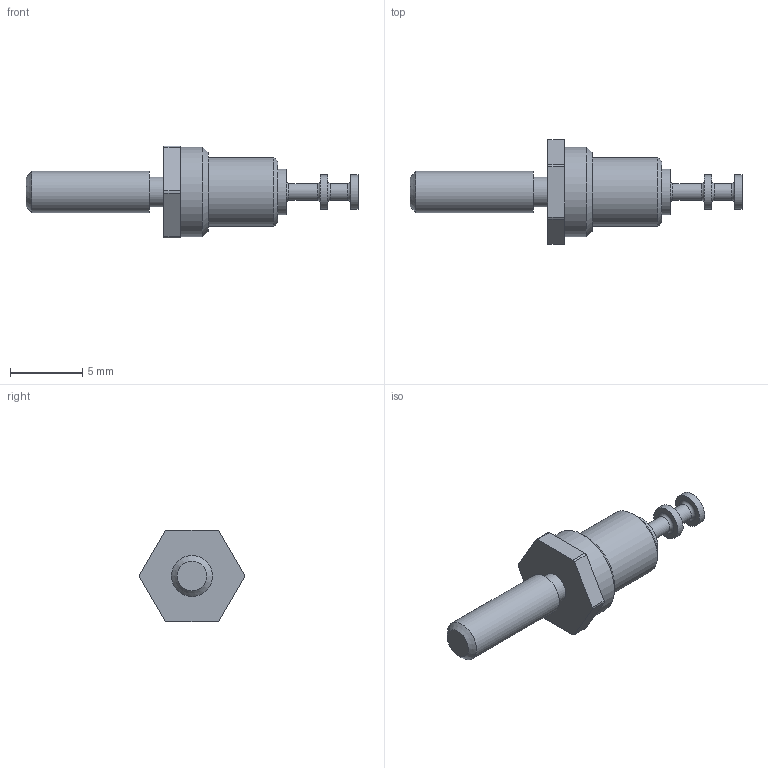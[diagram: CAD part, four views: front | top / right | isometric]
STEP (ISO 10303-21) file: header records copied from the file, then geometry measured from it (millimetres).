
FILE_DESCRIPTION(/* description */ (''),/* implementation_level */ '2;1');
FILE_NAME(/* name */ '\\Snap1\dwgs\Customer 3D Models\570\570-0008-02 Customer model.stp',/* time_stamp */ '2017-01-03T16:55:55+00:00',/* author */ ('paulk'),/* organization */ (''),/* preprocessor_version */ 'ST-DEVELOPER v15.2',/* originating_system */ 'Autodesk Inventor 2014',/* authorisation */ '');
FILE_SCHEMA (('CONFIG_CONTROL_DESIGN'));
Length unit declared in the file: millimetre
Products named in the file (1): 570-0008-02 Customer model
Bounding box: 22.96 x 7.24 x 6.34 mm (x, y, z)
Volume: 251.7 mm3; surface area: 325.1 mm2
Topology: 1 solids, 1 shells, 40 faces, 81 edges, 51 vertices
Faces by surface type: plane 16, cylinder 15, cone 5, torus 4
Full cylindrical faces by diameter (mm): 1.168 x2, 2.057 x1, 2.362 x2, 2.845 x1, 3.175 x1, 4.75 x1, 6.223 x1
Entity records: 1034 total; most frequent: DIRECTION 182, CARTESIAN_POINT 153, ORIENTED_EDGE 124, AXIS2_PLACEMENT_3D 79, EDGE_LOOP 66, EDGE_CURVE 62, VERTEX_POINT 50, STYLED_ITEM 41
